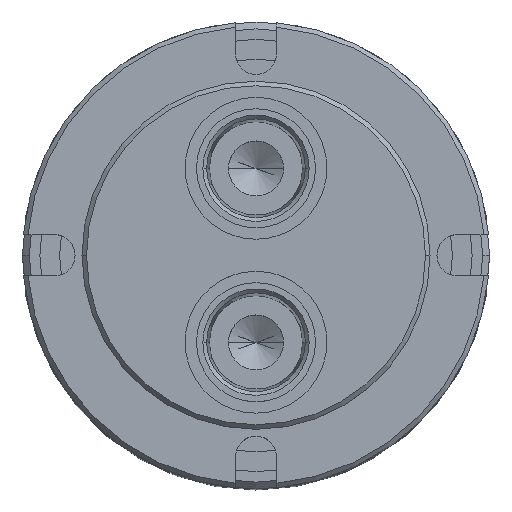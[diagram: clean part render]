
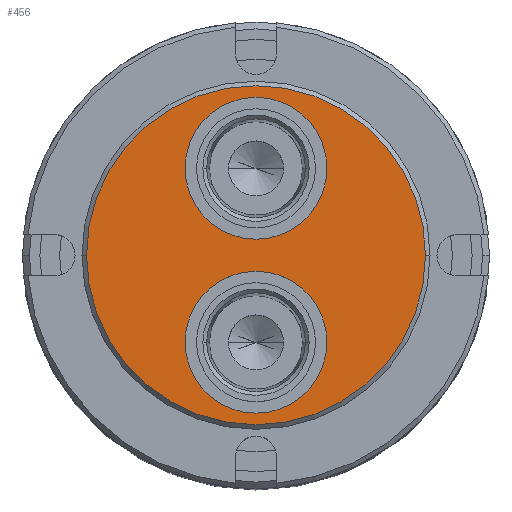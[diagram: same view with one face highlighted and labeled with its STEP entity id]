
A CAD part, top view. The second image highlights one B-rep face of the part: STEP entity #456.
In plain terms, the highlighted planar face has unit normal (0, 0, 1).
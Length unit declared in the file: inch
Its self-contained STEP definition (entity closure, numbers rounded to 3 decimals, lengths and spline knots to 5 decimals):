
#119 = EDGE_CURVE ( 'NONE', #5342, #5405, #1476, .T. ) ;
#140 = EDGE_CURVE ( 'NONE', #5268, #5385, #3054, .T. ) ;
#143 = EDGE_CURVE ( 'NONE', #3095, #3096, #3635, .T. ) ;
#191 = EDGE_CURVE ( 'NONE', #5385, #5268, #5443, .T. ) ;
#347 = EDGE_CURVE ( 'NONE', #5405, #5342, #3977, .T. ) ;
#456 = ADVANCED_FACE ( 'NONE', ( #762, #763, #746 ), #747, .F. ) ;
#469 = EDGE_CURVE ( 'NONE', #3096, #3095, #4247, .T. ) ;
#746 = FACE_OUTER_BOUND ( 'NONE', #3683, .T. ) ;
#747 = PLANE ( 'NONE',  #4241 ) ;
#762 = FACE_BOUND ( 'NONE', #3705, .T. ) ;
#763 = FACE_BOUND ( 'NONE', #3756, .T. ) ;
#778 = CARTESIAN_POINT ( 'NONE',  ( 0., 0., 0. ) ) ;
#779 = DIRECTION ( 'NONE',  ( 0., 0., -1. ) ) ;
#780 = DIRECTION ( 'NONE',  ( -1., 0., 0. ) ) ;
#826 = CARTESIAN_POINT ( 'NONE',  ( 0., -0.5935, 0. ) ) ;
#827 = DIRECTION ( 'NONE',  ( 0., 0., 1. ) ) ;
#828 = DIRECTION ( 'NONE',  ( -1., 0., 0. ) ) ;
#1227 = CARTESIAN_POINT ( 'NONE',  ( 0.484, -0.5935, 0. ) ) ;
#1228 = CARTESIAN_POINT ( 'NONE',  ( -0.484, -0.5935, 0. ) ) ;
#1338 = CARTESIAN_POINT ( 'NONE',  ( -1.1565, 0., 0. ) ) ;
#1365 = CARTESIAN_POINT ( 'NONE',  ( 0.484, 0.5935, 0. ) ) ;
#1390 = CARTESIAN_POINT ( 'NONE',  ( 1.1565, 0., 0. ) ) ;
#1409 = CARTESIAN_POINT ( 'NONE',  ( -0.484, 0.5935, 0. ) ) ;
#1472 = AXIS2_PLACEMENT_3D ( 'NONE', #4849, #4850, #4851 ) ;
#1476 = CIRCLE ( 'NONE', #1472, 0.484 ) ;
#2356 = CARTESIAN_POINT ( 'NONE',  ( 0., 0.5935, 0. ) ) ;
#2357 = DIRECTION ( 'NONE',  ( 0., 0., 1. ) ) ;
#2358 = DIRECTION ( 'NONE',  ( 1., 0., 0. ) ) ;
#3054 = CIRCLE ( 'NONE', #3057, 1.1565 ) ;
#3057 = AXIS2_PLACEMENT_3D ( 'NONE', #4962, #4963, #4964 ) ;
#3095 = VERTEX_POINT ( 'NONE', #1227 ) ;
#3096 = VERTEX_POINT ( 'NONE', #1228 ) ;
#3441 = ORIENTED_EDGE ( 'NONE', *, *, #143, .F. ) ;
#3442 = ORIENTED_EDGE ( 'NONE', *, *, #469, .F. ) ;
#3443 = ORIENTED_EDGE ( 'NONE', *, *, #119, .F. ) ;
#3444 = ORIENTED_EDGE ( 'NONE', *, *, #347, .F. ) ;
#3445 = ORIENTED_EDGE ( 'NONE', *, *, #140, .T. ) ;
#3446 = ORIENTED_EDGE ( 'NONE', *, *, #191, .T. ) ;
#3635 = CIRCLE ( 'NONE', #3639, 0.484 ) ;
#3639 = AXIS2_PLACEMENT_3D ( 'NONE', #4970, #4971, #4972 ) ;
#3683 = EDGE_LOOP ( 'NONE', ( #3445, #3446 ) ) ;
#3705 = EDGE_LOOP ( 'NONE', ( #3441, #3442 ) ) ;
#3756 = EDGE_LOOP ( 'NONE', ( #3443, #3444 ) ) ;
#3977 = CIRCLE ( 'NONE', #4068, 0.484 ) ;
#4068 = AXIS2_PLACEMENT_3D ( 'NONE', #2356, #2357, #2358 ) ;
#4241 = AXIS2_PLACEMENT_3D ( 'NONE', #778, #779, #780 ) ;
#4247 = CIRCLE ( 'NONE', #4250, 0.484 ) ;
#4250 = AXIS2_PLACEMENT_3D ( 'NONE', #826, #827, #828 ) ;
#4849 = CARTESIAN_POINT ( 'NONE',  ( 0., 0.5935, 0. ) ) ;
#4850 = DIRECTION ( 'NONE',  ( 0., 0., 1. ) ) ;
#4851 = DIRECTION ( 'NONE',  ( 1., 0., 0. ) ) ;
#4962 = CARTESIAN_POINT ( 'NONE',  ( 0., 0., 0. ) ) ;
#4963 = DIRECTION ( 'NONE',  ( 0., 0., 1. ) ) ;
#4964 = DIRECTION ( 'NONE',  ( -1., 0., 0. ) ) ;
#4970 = CARTESIAN_POINT ( 'NONE',  ( 0., -0.5935, 0. ) ) ;
#4971 = DIRECTION ( 'NONE',  ( 0., 0., 1. ) ) ;
#4972 = DIRECTION ( 'NONE',  ( -1., 0., 0. ) ) ;
#5247 = CARTESIAN_POINT ( 'NONE',  ( 0., 0., 0. ) ) ;
#5248 = DIRECTION ( 'NONE',  ( 0., 0., 1. ) ) ;
#5249 = DIRECTION ( 'NONE',  ( -1., 0., 0. ) ) ;
#5268 = VERTEX_POINT ( 'NONE', #1338 ) ;
#5342 = VERTEX_POINT ( 'NONE', #1365 ) ;
#5385 = VERTEX_POINT ( 'NONE', #1390 ) ;
#5405 = VERTEX_POINT ( 'NONE', #1409 ) ;
#5441 = AXIS2_PLACEMENT_3D ( 'NONE', #5247, #5248, #5249 ) ;
#5443 = CIRCLE ( 'NONE', #5441, 1.1565 ) ;
